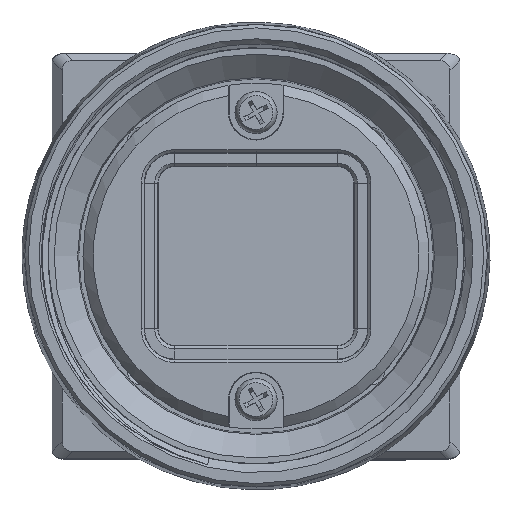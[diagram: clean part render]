
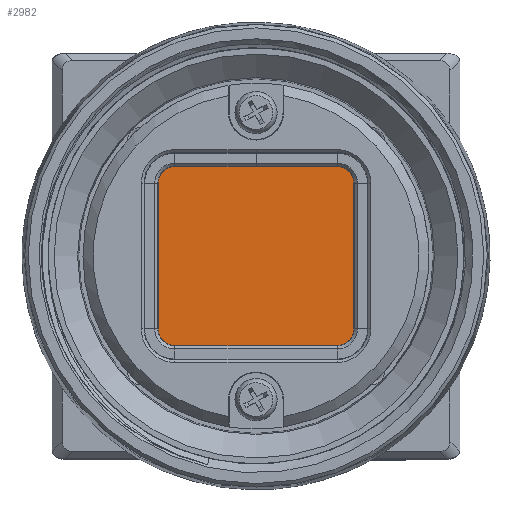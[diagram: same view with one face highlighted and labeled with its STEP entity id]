
A CAD part, top view. The second image highlights one B-rep face of the part: STEP entity #2982.
In plain terms, the highlighted planar face has unit normal (0, 0, 1).
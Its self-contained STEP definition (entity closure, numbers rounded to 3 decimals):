
#726 = LINE ( 'NONE', #18527, #82343 ) ;
#2982 = ADVANCED_FACE ( 'NONE', ( #14230 ), #45754, .F. ) ;
#5584 = CARTESIAN_POINT ( 'NONE',  ( -7., 7., 6. ) ) ;
#5823 = EDGE_CURVE ( 'NONE', #83234, #94313, #20495, .T. ) ;
#7929 = DIRECTION ( 'NONE',  ( 1., 0., 0. ) ) ;
#14230 = FACE_OUTER_BOUND ( 'NONE', #75943, .T. ) ;
#14618 = EDGE_CURVE ( 'NONE', #94313, #94972, #94862, .T. ) ;
#18063 = AXIS2_PLACEMENT_3D ( 'NONE', #87589, #118571, #56218 ) ;
#18171 = CARTESIAN_POINT ( 'NONE',  ( 7., 7., 6. ) ) ;
#18527 = CARTESIAN_POINT ( 'NONE',  ( 7., -7., 6. ) ) ;
#20495 = LINE ( 'NONE', #5584, #90514 ) ;
#36836 = CARTESIAN_POINT ( 'NONE',  ( 7., -7., 6. ) ) ;
#39545 = ORIENTED_EDGE ( 'NONE', *, *, #77479, .T. ) ;
#44163 = VECTOR ( 'NONE', #7929, 1000. ) ;
#45754 = PLANE ( 'NONE',  #18063 ) ;
#54045 = ORIENTED_EDGE ( 'NONE', *, *, #14618, .T. ) ;
#56218 = DIRECTION ( 'NONE',  ( -1., 0., 0. ) ) ;
#67230 = VECTOR ( 'NONE', #96133, 1000. ) ;
#73226 = VERTEX_POINT ( 'NONE', #36836 ) ;
#75943 = EDGE_LOOP ( 'NONE', ( #39545, #99265, #54045, #129632 ) ) ;
#77461 = CARTESIAN_POINT ( 'NONE',  ( -7., 7., 6. ) ) ;
#77479 = EDGE_CURVE ( 'NONE', #73226, #83234, #726, .T. ) ;
#78846 = CARTESIAN_POINT ( 'NONE',  ( -7., -7., 6. ) ) ;
#82343 = VECTOR ( 'NONE', #101859, 1000. ) ;
#83234 = VERTEX_POINT ( 'NONE', #18171 ) ;
#84785 = CARTESIAN_POINT ( 'NONE',  ( -7., -7., 6. ) ) ;
#87589 = CARTESIAN_POINT ( 'NONE',  ( 0., 0., 6. ) ) ;
#88472 = EDGE_CURVE ( 'NONE', #94972, #73226, #106063, .T. ) ;
#90380 = CARTESIAN_POINT ( 'NONE',  ( -7., -7., 6. ) ) ;
#90514 = VECTOR ( 'NONE', #108583, 1000. ) ;
#94313 = VERTEX_POINT ( 'NONE', #77461 ) ;
#94862 = LINE ( 'NONE', #84785, #67230 ) ;
#94972 = VERTEX_POINT ( 'NONE', #78846 ) ;
#96133 = DIRECTION ( 'NONE',  ( 0., -1., 0. ) ) ;
#99265 = ORIENTED_EDGE ( 'NONE', *, *, #5823, .T. ) ;
#101859 = DIRECTION ( 'NONE',  ( 0., 1., 0. ) ) ;
#106063 = LINE ( 'NONE', #90380, #44163 ) ;
#108583 = DIRECTION ( 'NONE',  ( -1., 0., 0. ) ) ;
#118571 = DIRECTION ( 'NONE',  ( 0., 0., -1. ) ) ;
#129632 = ORIENTED_EDGE ( 'NONE', *, *, #88472, .T. ) ;
